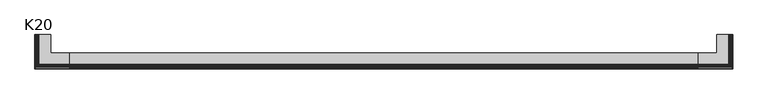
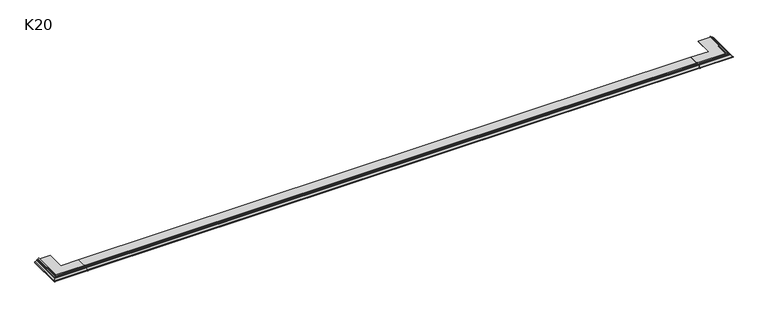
"""IFC4 building model written with IfcOpenShell, lengths in millimetres: proxy geometry, K20 Profil okapowy prosty : K20."""

from ifc_helpers import new_model, si_unit, frame, origin, place, context, project, spatial, polyline, circle_curve, ellipse_curve, source, transform, mapped, element, save
from ifc_brep_helpers import plane_surface, cylinder_surface, revolved_surface, advanced_brep


def k20_9d933942(model_context):
    return source(origin(), model_context, "Body", "AdvancedBrep", [
        advanced_brep(
        [(4800.0, 87.4989572, -10.1021899), (4800.0, 87.4989572, -11.7962628), (4800.0, 3.8555414, -11.7962628), (4800.0, 3.8184302, -14.8082521), (4800.0, 2.818506, -14.7959319), (4800.0, 2.8554668, -11.7961596), (4800.0, -12.8739503, -12.0873026), (4800.0, -13.7120428, -12.3877207), (4800.0, -26.4454583, -21.9775098), (4800.0, -27.2422707, -23.5751141), (4800.0, -27.2422707, -27.009236), (4800.0, -28.9426252, -27.0091483), (4800.0, -28.9426252, -23.2256491), (4800.0, -27.7470161, -20.8295524), (4800.0, -14.6847117, -10.9920705), (4800.0, -12.9833846, -10.3902613), (4800.0, -6.0170507, -10.0981654), (4800.0, -4.1008363, -8.0999212), (4800.0, -4.1008363, -5.5101863), (4800.0, -4.0266413, -4.0258099), (4800.0, 0.0, 0.0), (4800.0, -0.0197124, -1.5998786), (4800.0, -2.4989019, -4.0499843), (4800.0, -2.500569, -5.510882), (4800.0, -2.500569, -10.1021899), (4932.5010428, 220.0, -10.1021899), (5022.500569, 220.0, -10.1021899), (5022.500569, 220.0, -5.510882), (5022.4989019, 220.0, -4.0499843), (5020.0197124, 220.0, -1.5998786), (5020.0, 220.0, 0.0), (5024.0266413, 220.0, -4.0258099), (5024.1005689, 220.0, -5.5101863), (5024.1008363, 220.0, -8.0999212), (5026.0170507, 220.0, -10.0981654), (5032.9833846, 220.0, -10.3902613), (5034.6847117, 220.0, -10.9920705), (5047.7470161, 220.0, -20.8295524), (5048.9422346, 220.0, -23.2256491), (5048.9426252, 220.0, -27.0091483), (5047.2426253, 220.0, -27.009236), (5047.2422707, 220.0, -23.5751141), (5046.4454583, 220.0, -21.9775098), (5033.7120428, 220.0, -12.3877207), (5032.8739503, 220.0, -12.0873026), (5017.1445332, 220.0, -11.7961596), (5017.181494, 220.0, -14.7959319), (5016.1815698, 220.0, -14.8082521), (5016.1444586, 220.0, -11.7962628), (4932.5010428, 220.0, -11.7962628), (5022.500569, -2.500569, -10.1021899), (4932.5010428, 87.4989572, -10.1021899), (5022.500569, -2.500569, -5.510882), (5022.4989019, -2.4989019, -4.0499843), (5020.0197124, -0.0197124, -1.5998786), (5020.0, 0.0, 0.0), (5024.0266413, -4.0266413, -4.0258099), (5024.1008363, -4.1005689, -5.5101863), (5024.1008363, -4.1008363, -8.0999212), (5026.0170507, -6.0170507, -10.0981654), (5032.9833846, -12.9833846, -10.3902613), (5034.6847117, -14.6847117, -10.9920705), (5047.7470161, -27.7470161, -20.8295524), (5048.9426252, -28.9422346, -23.2256491), (5048.9426252, -28.9426252, -27.0091483), (5047.2422707, -27.2426253, -27.009236), (5047.2422707, -27.2422707, -23.5751141), (5046.4454583, -26.4454583, -21.9775098), (5033.7120428, -13.7120428, -12.3877207), (5017.1445332, 2.8554668, -11.7961596), (5032.8739503, -12.8739503, -12.0873026), (5017.181494, 2.818506, -14.7959319), (5016.1815698, 3.8184302, -14.8082521), (5016.1444586, 3.8555414, -11.7962628), (4932.5010428, 87.4989572, -11.7962628)],
        [
            (0, 1),
            (1, 2),
            (2, 3),
            (3, 4),
            (4, 5),
            (5, 6),
            (6, 7, circle_curve(frame((4800.0, -12.8482023, -13.4783781), z_axis=(1.0, 0.0, 0.0), x_axis=(0.0, -0.01850629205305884, 0.9998287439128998)), 1.3913138)),
            (7, 8),
            (8, 9, circle_curve(frame((4800.0, -25.2422707, -23.5751141), z_axis=(1.0, 0.0, 0.0), x_axis=(0.0, -0.6015938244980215, 0.7988021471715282)), 2.0)),
            (9, 10),
            (10, 11, circle_curve(frame((4800.0, -28.0926252, -27.0091483), z_axis=(-1.0, 0.0, 0.0), x_axis=(0.0, 0.9999999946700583, -0.0001032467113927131)), 0.85)),
            (11, 12),
            (12, 13, circle_curve(frame((4800.0, -25.9422346, -23.2259588), z_axis=(-1.0, 0.0, 0.0), x_axis=(0.0, -0.9999999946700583, 0.00010324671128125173)), 3.0)),
            (13, 14),
            (14, 15, circle_curve(frame((4800.0, -12.8799303, -13.388477), z_axis=(-1.0, 0.0, 0.0), x_axis=(0.0, -0.6015938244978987, 0.7988021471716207)), 3.0)),
            (15, 16),
            (16, 17, circle_curve(frame((4800.0, -6.1008363, -8.0999212), z_axis=(1.0, 0.0, 0.0), x_axis=(0.0, 0.04189282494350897, -0.9991221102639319)), 2.0)),
            (17, 18),
            (18, 19, circle_curve(frame((4800.0, 10.869654, -5.5117319), z_axis=(-1.0, 0.0, 0.0), x_axis=(0.0, -0.9999999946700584, 0.00010324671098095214)), 14.970223)),
            (19, 20, circle_curve(frame((4800.0, 0.4451419, -4.4718752), z_axis=(-1.0, 0.0, 0.0), x_axis=(0.0, -0.9950616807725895, 0.09925850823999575)), 4.4939759)),
            (20, 21),
            (21, 22, circle_curve(frame((4800.0, 0.0325847, -4.1321586), z_axis=(1.0, 0.0, 0.0), x_axis=(0.0, -0.020647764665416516, 0.9997868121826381)), 2.53282)),
            (22, 23, circle_curve(frame((4800.0, 65.5675894, -4.8581062), z_axis=(1.0, 0.0, 0.0), x_axis=(0.0, -0.9999295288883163, 0.011871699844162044)), 68.0712884)),
            (23, 24),
            (24, 0),
            (25, 26),
            (26, 27),
            (27, 28, circle_curve(frame((4954.4324106, 220.0, -4.8581062), z_axis=(0.0, -1.0, 0.0), x_axis=(0.9999295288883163, 0.0, 0.011871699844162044)), 68.0712884)),
            (28, 29, circle_curve(frame((5019.9674153, 220.0, -4.1321586), z_axis=(0.0, -1.0, 0.0), x_axis=(0.020647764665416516, 0.0, 0.9997868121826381)), 2.53282)),
            (29, 30),
            (30, 31, circle_curve(frame((5019.5548581, 220.0, -4.4718752), z_axis=(0.0, 1.0, 0.0), x_axis=(0.9950616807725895, 0.0, 0.09925850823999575)), 4.4939759)),
            (31, 32, circle_curve(frame((5009.130346, 220.0, -5.5117319), z_axis=(0.0, 1.0, 0.0), x_axis=(0.9999999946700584, 0.0, 0.00010324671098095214)), 14.970223)),
            (32, 33),
            (33, 34, circle_curve(frame((5026.1008363, 220.0, -8.0999212), z_axis=(0.0, -1.0, 0.0), x_axis=(-0.04189282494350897, 0.0, -0.9991221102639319)), 2.0)),
            (34, 35),
            (35, 36, circle_curve(frame((5032.8799303, 220.0, -13.388477), z_axis=(0.0, 1.0, 0.0), x_axis=(0.6015938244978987, 0.0, 0.7988021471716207)), 3.0)),
            (36, 37),
            (37, 38, circle_curve(frame((5045.9422346, 220.0, -23.2259588), z_axis=(0.0, 1.0, 0.0), x_axis=(0.9999999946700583, 0.0, 0.00010324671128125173)), 3.0)),
            (38, 39),
            (39, 40, circle_curve(frame((5048.0926252, 220.0, -27.0091483), z_axis=(0.0, 1.0, 0.0), x_axis=(-0.9999999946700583, 0.0, -0.0001032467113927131)), 0.85)),
            (40, 41),
            (41, 42, circle_curve(frame((5045.2422707, 220.0, -23.5751141), z_axis=(0.0, -1.0, 0.0), x_axis=(0.6015938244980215, 0.0, 0.7988021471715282)), 2.0)),
            (42, 43),
            (43, 44, circle_curve(frame((5032.8482023, 220.0, -13.4783781), z_axis=(0.0, -1.0, 0.0), x_axis=(0.01850629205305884, 0.0, 0.9998287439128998)), 1.3913138)),
            (44, 45),
            (45, 46),
            (46, 47),
            (47, 48),
            (48, 49),
            (49, 25),
            (24, 50),
            (50, 26),
            (25, 51),
            (51, 0),
            (23, 52),
            (52, 50),
            (22, 53),
            (53, 52, ellipse_curve(frame((4954.4324106, 65.5675894, -4.8581062), z_axis=(0.7071067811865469, 0.7071067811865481, 0.0), x_axis=(0.7071067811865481, -0.7071067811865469, 0.0)), 96.2673393, 68.0712884)),
            (21, 54),
            (54, 53, ellipse_curve(frame((5019.9674153, 0.0325847, -4.1321586), z_axis=(0.7071067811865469, 0.7071067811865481, 0.0), x_axis=(0.7071067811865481, -0.7071067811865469, 0.0)), 3.5819484, 2.53282)),
            (20, 55),
            (55, 54),
            (19, 56),
            (56, 55, ellipse_curve(frame((5019.5548581, 0.4451419, -4.4718752), z_axis=(-0.7071067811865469, -0.7071067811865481, 0.0), x_axis=(-0.7071067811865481, 0.7071067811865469, 0.0)), 6.3554417, 4.4939759)),
            (18, 57),
            (57, 56, ellipse_curve(frame((5009.130346, 10.869654, -5.5117319), z_axis=(-0.7071067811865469, -0.7071067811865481, 0.0), x_axis=(-0.7071067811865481, 0.7071067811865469, 0.0)), 21.1710924, 14.970223)),
            (17, 58),
            (58, 57),
            (16, 59),
            (59, 58, ellipse_curve(frame((5026.1008363, -6.1008363, -8.0999212), z_axis=(0.7071067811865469, 0.7071067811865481, 0.0), x_axis=(0.7071067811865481, -0.7071067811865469, 0.0)), 2.8284271, 2.0)),
            (15, 60),
            (60, 59),
            (14, 61),
            (61, 60, ellipse_curve(frame((5032.8799303, -12.8799303, -13.388477), z_axis=(-0.7071067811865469, -0.7071067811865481, 0.0), x_axis=(-0.7071067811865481, 0.7071067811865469, 0.0)), 4.2426407, 3.0)),
            (13, 62),
            (62, 61),
            (12, 63),
            (63, 62, ellipse_curve(frame((5045.9422346, -25.9422346, -23.2259588), z_axis=(-0.7071067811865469, -0.7071067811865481, 0.0), x_axis=(-0.7071067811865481, 0.7071067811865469, 0.0)), 4.2426407, 3.0)),
            (11, 64),
            (64, 63),
            (10, 65),
            (65, 64, ellipse_curve(frame((5048.0926252, -28.0926252, -27.0091483), z_axis=(-0.7071067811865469, -0.7071067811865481, 0.0), x_axis=(-0.7071067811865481, 0.7071067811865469, 0.0)), 1.2020815, 0.85)),
            (9, 66),
            (66, 65),
            (8, 67),
            (67, 66, ellipse_curve(frame((5045.2422707, -25.2422707, -23.5751141), z_axis=(0.7071067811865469, 0.7071067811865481, 0.0), x_axis=(0.7071067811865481, -0.7071067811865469, 0.0)), 2.8284271, 2.0)),
            (7, 68),
            (68, 67),
            (5, 69),
            (69, 70),
            (70, 6),
            (4, 71),
            (71, 69),
            (3, 72),
            (72, 71),
            (2, 73),
            (73, 72),
            (1, 74),
            (74, 49),
            (48, 73),
            (51, 74),
            (52, 27),
            (54, 29),
            (28, 53),
            (56, 31),
            (30, 55),
            (58, 33),
            (32, 57),
            (60, 35),
            (34, 59),
            (61, 36),
            (70, 68, ellipse_curve(frame((5032.8482023, -12.8482023, -13.4783781), z_axis=(0.7071067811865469, 0.7071067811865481, 0.0), x_axis=(0.7071067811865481, -0.7071067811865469, 0.0)), 1.9676148, 1.3913138)),
            (62, 37),
            (63, 38),
            (64, 39),
            (65, 40),
            (66, 41),
            (67, 42),
            (68, 43),
            (70, 44),
            (69, 45),
            (71, 46),
            (72, 47),
        ],
        [
            plane_surface(frame((4800.0, 0.0, 1.0), z_axis=(-1.0, 0.0, 0.0), x_axis=(0.0, 0.0, 1.0))),
            plane_surface(frame((5020.0, 220.0, 1.0), z_axis=(0.0, 1.0, 0.0), x_axis=(0.0, 0.0, 1.0))),
            plane_surface(frame((4800.0, 87.4989572, -10.1021899), z_axis=(0.0, 0.0, 1.0), x_axis=(1.0, 0.0, 0.0))),
            plane_surface(frame((4800.0, -2.500569, -10.1021899), z_axis=(0.0, 1.0, 0.0), x_axis=(1.0, 0.0, 0.0))),
            revolved_surface(polyline([(5022.503699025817, -2.498901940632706, -4.049984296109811), (4800.0, -2.498901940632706, -4.049984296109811)]), (4800.0, 65.5675894, -4.8581062), (1.0, 0.0, 0.0)),
            revolved_surface(polyline([(5022.5002353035, -0.01971237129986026, -1.599878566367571), (4800.0, -0.01971237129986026, -1.599878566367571)]), (4800.0, 0.0325847, -4.1321586), (1.0, 0.0, 0.0)),
            plane_surface(frame((4800.0, -0.0197124, -1.5998786), z_axis=(0.0, 0.9999241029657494, -0.012320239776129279), x_axis=(1.0, 0.0, 0.0))),
            cylinder_surface(frame((4800.0, 0.4451419, -4.4718752), z_axis=(-1.0000000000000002, 0.0, 0.0), x_axis=(0.0, -0.9950616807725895, 0.09925850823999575)), 4.4939759),
            cylinder_surface(frame((4800.0, 10.869654, -5.5117319), z_axis=(-1.0000000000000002, 0.0, 0.0), x_axis=(0.0, -0.9999999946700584, 0.00010324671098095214)), 14.970223),
            plane_surface(frame((4800.0, -4.1008363, -5.5101863), z_axis=(0.0, -1.0, 0.0), x_axis=(1.0, 0.0, 0.0))),
            revolved_surface(polyline([(5028.100836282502, -6.017050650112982, -10.098165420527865), (4800.0, -6.017050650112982, -10.098165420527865)]), (4800.0, -6.1008363, -8.0999212), (1.0, 0.0, 0.0)),
            plane_surface(frame((4800.0, -6.0170507, -10.0981654), z_axis=(0.0, -0.04189282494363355, 0.9991221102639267), x_axis=(1.0, 0.0, 0.0))),
            cylinder_surface(frame((4800.0, -12.8799303, -13.388477), z_axis=(-1.0, 0.0, 0.0), x_axis=(0.0, -0.6015938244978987, 0.7988021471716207)), 3.0),
            plane_surface(frame((4800.0, -14.6847117, -10.9920705), z_axis=(0.0, -0.6015938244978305, 0.798802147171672), x_axis=(1.0, 0.0, 0.0))),
            cylinder_surface(frame((4800.0, -25.9422346, -23.2259588), z_axis=(-1.0, 0.0, 0.0), x_axis=(0.0, -0.9999999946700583, 0.00010324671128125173)), 3.0),
            plane_surface(frame((4800.0, -28.9426252, -23.2256491), z_axis=(0.0, -1.0, 0.0), x_axis=(1.0, 0.0, 0.0))),
            cylinder_surface(frame((4800.0, -28.0926252, -27.0091483), z_axis=(-1.0, 0.0, 0.0), x_axis=(0.0, 0.9999999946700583, -0.0001032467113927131)), 0.85),
            plane_surface(frame((4800.0, -27.2422707, -27.009236), z_axis=(0.0, 1.0, 0.0), x_axis=(1.0, 0.0, 0.0))),
            revolved_surface(polyline([(5047.2422707, -26.44545834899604, -21.977509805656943), (4800.0, -26.44545834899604, -21.977509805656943)]), (4800.0, -25.2422707, -23.5751141), (1.0, 0.0, 0.0)),
            plane_surface(frame((4800.0, -26.4454583, -21.9775098), z_axis=(0.0, 0.6015938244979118, -0.7988021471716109), x_axis=(1.0, 0.0, 0.0))),
            plane_surface(frame((4800.0, -12.8739503, -12.0873026), z_axis=(0.0, 0.01850629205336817, -0.999828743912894), x_axis=(1.0, 0.0, 0.0))),
            plane_surface(frame((4800.0, 2.8554668, -11.7961596), z_axis=(0.0, -0.9999241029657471, 0.012320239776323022), x_axis=(1.0, 0.0, 0.0))),
            plane_surface(frame((4800.0, 2.818506, -14.7959319), z_axis=(0.0, -0.01232023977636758, -0.9999241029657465), x_axis=(1.0, 0.0, 0.0))),
            plane_surface(frame((4800.0, 3.8184302, -14.8082521), z_axis=(0.0, 0.9999241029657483, -0.012320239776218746), x_axis=(1.0, 0.0, 0.0))),
            plane_surface(frame((4800.0, 3.8555414, -11.7962628), z_axis=(0.0, 0.0, -1.0), x_axis=(1.0, 0.0, 0.0))),
            plane_surface(frame((4800.0, 87.4989572, -11.7962628), z_axis=(0.0, 1.0, 0.0), x_axis=(1.0, 0.0, 0.0))),
            plane_surface(frame((5022.500569, -2.500569, -10.1021899), z_axis=(-1.0, 0.0, 0.0), x_axis=(0.0, 1.0, 0.0))),
            revolved_surface(polyline([(5020.0197123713, 220.0, -1.599878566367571), (5020.0197123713, -2.5002353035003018, -1.599878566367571)]), (5019.9674153, 0.0, -4.1321586), (0.0, 1.0, 0.0)),
            cylinder_surface(frame((5019.5548581, 0.0, -4.4718752), z_axis=(0.0, -1.0000000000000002, 0.0), x_axis=(0.9950616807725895, 0.0, 0.09925850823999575)), 4.4939759),
            plane_surface(frame((5024.1008363, -4.1008363, -5.5101863), z_axis=(1.0, 0.0, 0.0), x_axis=(0.0, 1.0, 0.0))),
            plane_surface(frame((5026.0170507, -6.0170507, -10.0981654), z_axis=(0.04189282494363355, 0.0, 0.9991221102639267), x_axis=(0.0, 1.0, 0.0))),
            cylinder_surface(frame((5032.8799303, 0.0, -13.388477), z_axis=(0.0, -1.0, 0.0), x_axis=(0.6015938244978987, 0.0, 0.7988021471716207)), 3.0),
            revolved_surface(polyline([(5034.2395160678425, -12.873950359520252, -12.087302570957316), (4800.0, -12.873950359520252, -12.087302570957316)]), (4800.0, -12.8482023, -13.4783781), (1.0, 0.0, 0.0)),
            revolved_surface(polyline([(5022.498901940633, 220.0, -4.049984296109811), (5022.498901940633, -2.503699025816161, -4.049984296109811)]), (4954.4324106, 0.0, -4.8581062), (0.0, 1.0, 0.0)),
            plane_surface(frame((5020.0197124, -0.0197124, -1.5998786), z_axis=(-0.9999241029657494, 0.0, -0.012320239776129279), x_axis=(0.0, 1.0, 0.0))),
            cylinder_surface(frame((5009.130346, 0.0, -5.5117319), z_axis=(0.0, -1.0000000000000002, 0.0), x_axis=(0.9999999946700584, 0.0, 0.00010324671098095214)), 14.970223),
            revolved_surface(polyline([(5026.017050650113, 220.0, -10.098165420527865), (5026.017050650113, -8.100836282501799, -10.098165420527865)]), (5026.1008363, 0.0, -8.0999212), (0.0, 1.0, 0.0)),
            plane_surface(frame((5034.6847117, -14.6847117, -10.9920705), z_axis=(0.6015938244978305, 0.0, 0.798802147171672), x_axis=(0.0, 1.0, 0.0))),
            cylinder_surface(frame((5045.9422346, 0.0, -23.2259588), z_axis=(0.0, -1.0, 0.0), x_axis=(0.9999999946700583, 0.0, 0.00010324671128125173)), 3.0),
            plane_surface(frame((5048.9426252, -28.9426252, -23.2256491), z_axis=(1.0, 0.0, 0.0), x_axis=(0.0, 1.0, 0.0))),
            cylinder_surface(frame((5048.0926252, 0.0, -27.0091483), z_axis=(0.0, -1.0, 0.0), x_axis=(-0.9999999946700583, 0.0, -0.0001032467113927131)), 0.85),
            plane_surface(frame((5047.2422707, -27.2422707, -27.009236), z_axis=(-1.0, 0.0, 0.0), x_axis=(0.0, 1.0, 0.0))),
            revolved_surface(polyline([(5046.445458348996, 220.0, -21.977509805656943), (5046.445458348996, -27.2422707, -21.977509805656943)]), (5045.2422707, 0.0, -23.5751141), (0.0, 1.0, 0.0)),
            plane_surface(frame((5046.4454583, -26.4454583, -21.9775098), z_axis=(-0.6015938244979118, 0.0, -0.7988021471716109), x_axis=(0.0, 1.0, 0.0))),
            revolved_surface(polyline([(5032.87395035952, 220.0, -12.087302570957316), (5032.87395035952, -14.239516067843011, -12.087302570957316)]), (5032.8482023, 0.0, -13.4783781), (0.0, 1.0, 0.0)),
            plane_surface(frame((5032.8739503, -12.8739503, -12.0873026), z_axis=(-0.01850629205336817, 0.0, -0.999828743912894), x_axis=(0.0, 1.0, 0.0))),
            plane_surface(frame((5017.1445332, 2.8554668, -11.7961596), z_axis=(0.9999241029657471, 0.0, 0.012320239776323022), x_axis=(0.0, 1.0, 0.0))),
            plane_surface(frame((5017.181494, 2.818506, -14.7959319), z_axis=(0.01232023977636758, 0.0, -0.9999241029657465), x_axis=(0.0, 1.0, 0.0))),
            plane_surface(frame((5016.1815698, 3.8184302, -14.8082521), z_axis=(-0.9999241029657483, 0.0, -0.012320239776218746), x_axis=(0.0, 1.0, 0.0))),
            plane_surface(frame((4932.5010428, 87.4989572, -11.7962628), z_axis=(-1.0, 0.0, 0.0), x_axis=(0.0, 1.0, 0.0))),
        ],
        [
            (0, [[1, 2, 3, 4, 5, 6, 7, 8, 9, 10, 11, 12, 13, 14, 15, 16, 17, 18, 19, 20, 21, 22, 23, 24, 25]]),
            (1, [[26, 27, 28, 29, 30, 31, 32, 33, 34, 35, 36, 37, 38, 39, 40, 41, 42, 43, 44, 45, 46, 47, 48, 49, 50]]),
            (2, [[51, 52, -26, 53, 54, -25]]),
            (3, [[55, 56, -51, -24]]),
            (4, [[57, 58, -55, -23]]),
            (5, [[59, 60, -57, -22]]),
            (6, [[61, 62, -59, -21]]),
            (7, [[63, 64, -61, -20]]),
            (8, [[65, 66, -63, -19]]),
            (9, [[67, 68, -65, -18]]),
            (10, [[69, 70, -67, -17]]),
            (11, [[71, 72, -69, -16]]),
            (12, [[73, 74, -71, -15]]),
            (13, [[75, 76, -73, -14]]),
            (14, [[77, 78, -75, -13]]),
            (15, [[79, 80, -77, -12]]),
            (16, [[81, 82, -79, -11]]),
            (17, [[83, 84, -81, -10]]),
            (18, [[85, 86, -83, -9]]),
            (19, [[87, 88, -85, -8]]),
            (20, [[89, 90, 91, -6]]),
            (21, [[92, 93, -89, -5]]),
            (22, [[94, 95, -92, -4]]),
            (23, [[96, 97, -94, -3]]),
            (24, [[98, 99, -49, 100, -96, -2]]),
            (25, [[-54, 101, -98, -1]]),
            (26, [[102, -27, -52, -56]]),
            (27, [[103, -29, 104, -60]]),
            (28, [[105, -31, 106, -64]]),
            (29, [[107, -33, 108, -68]]),
            (30, [[109, -35, 110, -72]]),
            (31, [[111, -36, -109, -74]]),
            (32, [[-91, 112, -87, -7]]),
            (33, [[-104, -28, -102, -58]]),
            (34, [[-106, -30, -103, -62]]),
            (35, [[-108, -32, -105, -66]]),
            (36, [[-110, -34, -107, -70]]),
            (37, [[113, -37, -111, -76]]),
            (38, [[114, -38, -113, -78]]),
            (39, [[115, -39, -114, -80]]),
            (40, [[116, -40, -115, -82]]),
            (41, [[117, -41, -116, -84]]),
            (42, [[118, -42, -117, -86]]),
            (43, [[119, -43, -118, -88]]),
            (44, [[120, -44, -119, -112]]),
            (45, [[121, -45, -120, -90]]),
            (46, [[122, -46, -121, -93]]),
            (47, [[123, -47, -122, -95]]),
            (48, [[-100, -48, -123, -97]]),
            (49, [[-53, -50, -99, -101]]),
        ],
    ),
        advanced_brep(
        [(220.0, 87.4989572, -10.1021899), (220.0, -2.500569, -10.1021899), (220.0, -2.500569, -5.510882), (220.0, -2.4989019, -4.0499843), (220.0, -0.0197124, -1.5998786), (220.0, 0.0, 0.0), (220.0, -4.0266413, -4.0258099), (220.0, -4.1005689, -5.5101863), (220.0, -4.1008363, -8.0999212), (220.0, -6.0170507, -10.0981654), (220.0, -12.9833846, -10.3902613), (220.0, -14.6847117, -10.9920705), (220.0, -27.7470161, -20.8295524), (220.0, -28.9422346, -23.2256491), (220.0, -28.9426252, -27.0091483), (220.0, -27.2426253, -27.009236), (220.0, -27.2422707, -23.5751141), (220.0, -26.4454583, -21.9775098), (220.0, -13.7120428, -12.3877207), (220.0, -12.8739503, -12.0873026), (220.0, 2.8554668, -11.7961596), (220.0, 2.818506, -14.7959319), (220.0, 3.8184302, -14.8082521), (220.0, 3.8555414, -11.7962628), (220.0, 87.4989572, -11.7962628), (87.4989572, 220.0, -10.1021899), (87.4989572, 220.0, -11.7962628), (3.8555414, 220.0, -11.7962628), (3.8184302, 220.0, -14.8082521), (2.818506, 220.0, -14.7959319), (2.8554668, 220.0, -11.7961596), (-12.8739503, 220.0, -12.0873026), (-13.7120428, 220.0, -12.3877207), (-26.4454583, 220.0, -21.9775098), (-27.2422707, 220.0, -23.5751141), (-27.2422707, 220.0, -27.009236), (-28.9426252, 220.0, -27.0091483), (-28.9426252, 220.0, -23.2256491), (-27.7470161, 220.0, -20.8295524), (-14.6847117, 220.0, -10.9920705), (-12.9833846, 220.0, -10.3902613), (-6.0170507, 220.0, -10.0981654), (-4.1008363, 220.0, -8.0999212), (-4.1008363, 220.0, -5.5101863), (-4.0266413, 220.0, -4.0258099), (0.0, 220.0, 0.0), (-0.0197124, 220.0, -1.5998786), (-2.4989019, 220.0, -4.0499843), (-2.500569, 220.0, -5.510882), (-2.500569, 220.0, -10.1021899), (87.4989572, 87.4989572, -10.1021899), (-2.500569, -2.500569, -10.1021899), (-2.500569, -2.500569, -5.510882), (-2.4989019, -2.4989019, -4.0499843), (-0.0197124, -0.0197124, -1.5998786), (0.0, 0.0, 0.0), (-4.0266413, -4.0266413, -4.0258099), (-4.1005689, -4.1005689, -5.5101863), (-4.1008363, -4.1008363, -8.0999212), (-6.0170507, -6.0170507, -10.0981654), (-12.9833846, -12.9833846, -10.3902613), (-14.6847117, -14.6847117, -10.9920705), (-27.7470161, -27.7470161, -20.8295524), (-28.9422346, -28.9422346, -23.2256491), (-28.9426252, -28.9426252, -27.0091483), (-27.2426253, -27.2426253, -27.009236), (-27.2422707, -27.2422707, -23.5751141), (-26.4454583, -26.4454583, -21.9775098), (-13.7120428, -13.7120428, -12.3877207), (-12.8739503, -12.8739503, -12.0873026), (2.8554668, 2.8554668, -11.7961596), (2.818506, 2.818506, -14.7959319), (3.8184302, 3.8184302, -14.8082521), (3.8555414, 3.8555414, -11.7962628), (87.4989572, 87.4989572, -11.7962628)],
        [
            (0, 1),
            (1, 2),
            (2, 3, circle_curve(frame((220.0, 65.5675894, -4.8581062), z_axis=(-1.0, 0.0, 0.0), x_axis=(0.0, -0.9999295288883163, 0.011871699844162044)), 68.0712884)),
            (3, 4, circle_curve(frame((220.0, 0.0325847, -4.1321586), z_axis=(-1.0, 0.0, 0.0), x_axis=(0.0, -0.020647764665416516, 0.9997868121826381)), 2.53282)),
            (4, 5),
            (5, 6, circle_curve(frame((220.0, 0.4451419, -4.4718752), z_axis=(1.0, 0.0, 0.0), x_axis=(0.0, -0.9950616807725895, 0.09925850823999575)), 4.4939759)),
            (6, 7, circle_curve(frame((220.0, 10.869654, -5.5117319), z_axis=(1.0, 0.0, 0.0), x_axis=(0.0, -0.9999999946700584, 0.00010324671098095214)), 14.970223)),
            (7, 8),
            (8, 9, circle_curve(frame((220.0, -6.1008363, -8.0999212), z_axis=(-1.0, 0.0, 0.0), x_axis=(0.0, 0.04189282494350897, -0.9991221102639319)), 2.0)),
            (9, 10),
            (10, 11, circle_curve(frame((220.0, -12.8799303, -13.388477), z_axis=(1.0, 0.0, 0.0), x_axis=(0.0, -0.6015938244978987, 0.7988021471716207)), 3.0)),
            (11, 12),
            (12, 13, circle_curve(frame((220.0, -25.9422346, -23.2259588), z_axis=(1.0, 0.0, 0.0), x_axis=(0.0, -0.9999999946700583, 0.00010324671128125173)), 3.0)),
            (13, 14),
            (14, 15, circle_curve(frame((220.0, -28.0926252, -27.0091483), z_axis=(1.0, 0.0, 0.0), x_axis=(0.0, 0.9999999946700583, -0.0001032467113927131)), 0.85)),
            (15, 16),
            (16, 17, circle_curve(frame((220.0, -25.2422707, -23.5751141), z_axis=(-1.0, 0.0, 0.0), x_axis=(0.0, -0.6015938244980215, 0.7988021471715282)), 2.0)),
            (17, 18),
            (18, 19, circle_curve(frame((220.0, -12.8482023, -13.4783781), z_axis=(-1.0, 0.0, 0.0), x_axis=(0.0, -0.01850629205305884, 0.9998287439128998)), 1.3913138)),
            (19, 20),
            (20, 21),
            (21, 22),
            (22, 23),
            (23, 24),
            (24, 0),
            (25, 26),
            (26, 27),
            (27, 28),
            (28, 29),
            (29, 30),
            (30, 31),
            (31, 32, circle_curve(frame((-12.8482023, 220.0, -13.4783781), z_axis=(0.0, -1.0, 0.0), x_axis=(-0.01850629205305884, 0.0, 0.9998287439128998)), 1.3913138)),
            (32, 33),
            (33, 34, circle_curve(frame((-25.2422707, 220.0, -23.5751141), z_axis=(0.0, -1.0, 0.0), x_axis=(-0.6015938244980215, 0.0, 0.7988021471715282)), 2.0)),
            (34, 35),
            (35, 36, circle_curve(frame((-28.0926252, 220.0, -27.0091483), z_axis=(0.0, 1.0, 0.0), x_axis=(0.9999999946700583, 0.0, -0.0001032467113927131)), 0.85)),
            (36, 37),
            (37, 38, circle_curve(frame((-25.9422346, 220.0, -23.2259588), z_axis=(0.0, 1.0, 0.0), x_axis=(-0.9999999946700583, 0.0, 0.00010324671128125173)), 3.0)),
            (38, 39),
            (39, 40, circle_curve(frame((-12.8799303, 220.0, -13.388477), z_axis=(0.0, 1.0, 0.0), x_axis=(-0.6015938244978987, 0.0, 0.7988021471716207)), 3.0)),
            (40, 41),
            (41, 42, circle_curve(frame((-6.1008363, 220.0, -8.0999212), z_axis=(0.0, -1.0, 0.0), x_axis=(0.04189282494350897, 0.0, -0.9991221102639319)), 2.0)),
            (42, 43),
            (43, 44, circle_curve(frame((10.869654, 220.0, -5.5117319), z_axis=(0.0, 1.0, 0.0), x_axis=(-0.9999999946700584, 0.0, 0.00010324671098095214)), 14.970223)),
            (44, 45, circle_curve(frame((0.4451419, 220.0, -4.4718752), z_axis=(0.0, 1.0, 0.0), x_axis=(-0.9950616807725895, 0.0, 0.09925850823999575)), 4.4939759)),
            (45, 46),
            (46, 47, circle_curve(frame((0.0325847, 220.0, -4.1321586), z_axis=(0.0, -1.0, 0.0), x_axis=(-0.020647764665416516, 0.0, 0.9997868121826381)), 2.53282)),
            (47, 48, circle_curve(frame((65.5675894, 220.0, -4.8581062), z_axis=(0.0, -1.0, 0.0), x_axis=(-0.9999295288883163, 0.0, 0.011871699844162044)), 68.0712884)),
            (48, 49),
            (49, 25),
            (0, 50),
            (50, 25),
            (49, 51),
            (51, 1),
            (51, 52),
            (52, 2),
            (52, 53, ellipse_curve(frame((65.5675894, 65.5675894, -4.8581062), z_axis=(-0.7071067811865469, 0.7071067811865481, 0.0), x_axis=(-0.7071067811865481, -0.7071067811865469, 0.0)), 96.2673393, 68.0712884)),
            (53, 3),
            (53, 54, ellipse_curve(frame((0.0325847, 0.0325847, -4.1321586), z_axis=(-0.7071067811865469, 0.7071067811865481, 0.0), x_axis=(-0.7071067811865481, -0.7071067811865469, 0.0)), 3.5819484, 2.53282)),
            (54, 4),
            (54, 55),
            (55, 5),
            (55, 56, ellipse_curve(frame((0.4451419, 0.4451419, -4.4718752), z_axis=(0.7071067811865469, -0.7071067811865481, 0.0), x_axis=(0.7071067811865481, 0.7071067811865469, 0.0)), 6.3554417, 4.4939759)),
            (56, 6),
            (56, 57, ellipse_curve(frame((10.869654, 10.869654, -5.5117319), z_axis=(0.7071067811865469, -0.7071067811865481, 0.0), x_axis=(0.7071067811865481, 0.7071067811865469, 0.0)), 21.1710924, 14.970223)),
            (57, 7),
            (57, 58),
            (58, 8),
            (58, 59, ellipse_curve(frame((-6.1008363, -6.1008363, -8.0999212), z_axis=(-0.7071067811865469, 0.7071067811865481, 0.0), x_axis=(-0.7071067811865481, -0.7071067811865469, 0.0)), 2.8284271, 2.0)),
            (59, 9),
            (59, 60),
            (60, 10),
            (60, 61, ellipse_curve(frame((-12.8799303, -12.8799303, -13.388477), z_axis=(0.7071067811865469, -0.7071067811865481, 0.0), x_axis=(0.7071067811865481, 0.7071067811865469, 0.0)), 4.2426407, 3.0)),
            (61, 11),
            (61, 62),
            (62, 12),
            (62, 63, ellipse_curve(frame((-25.9422346, -25.9422346, -23.2259588), z_axis=(0.7071067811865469, -0.7071067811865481, 0.0), x_axis=(0.7071067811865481, 0.7071067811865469, 0.0)), 4.2426407, 3.0)),
            (63, 13),
            (63, 64),
            (64, 14),
            (64, 65, ellipse_curve(frame((-28.0926252, -28.0926252, -27.0091483), z_axis=(0.7071067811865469, -0.7071067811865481, 0.0), x_axis=(0.7071067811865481, 0.7071067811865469, 0.0)), 1.2020815, 0.85)),
            (65, 15),
            (65, 66),
            (66, 16),
            (66, 67, ellipse_curve(frame((-25.2422707, -25.2422707, -23.5751141), z_axis=(-0.7071067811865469, 0.7071067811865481, 0.0), x_axis=(-0.7071067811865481, -0.7071067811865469, 0.0)), 2.8284271, 2.0)),
            (67, 17),
            (67, 68),
            (68, 18),
            (19, 69),
            (69, 70),
            (70, 20),
            (70, 71),
            (71, 21),
            (71, 72),
            (72, 22),
            (72, 73),
            (73, 23),
            (73, 27),
            (26, 74),
            (74, 24),
            (74, 50),
            (48, 52),
            (53, 47),
            (46, 54),
            (55, 45),
            (44, 56),
            (57, 43),
            (42, 58),
            (59, 41),
            (40, 60),
            (39, 61),
            (68, 69, ellipse_curve(frame((-12.8482023, -12.8482023, -13.4783781), z_axis=(-0.7071067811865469, 0.7071067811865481, 0.0), x_axis=(-0.7071067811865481, -0.7071067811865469, 0.0)), 1.9676148, 1.3913138)),
            (38, 62),
            (37, 63),
            (36, 64),
            (35, 65),
            (34, 66),
            (33, 67),
            (32, 68),
            (31, 69),
            (30, 70),
            (29, 71),
            (28, 72),
        ],
        [
            plane_surface(frame((220.0, 0.0, 1.0), z_axis=(1.0, 0.0, 0.0), x_axis=(0.0, 0.0, 1.0))),
            plane_surface(frame((0.0, 220.0, 1.0), z_axis=(0.0, 1.0, 0.0), x_axis=(0.0, 0.0, 1.0))),
            plane_surface(frame((220.0, 87.4989572, -10.1021899), z_axis=(0.0, 0.0, 1.0), x_axis=(-1.0, 0.0, 0.0))),
            plane_surface(frame((220.0, -2.500569, -10.1021899), z_axis=(0.0, 1.0, 0.0), x_axis=(-1.0, 0.0, 0.0))),
            revolved_surface(polyline([(-2.5036990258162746, -2.498901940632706, -4.049984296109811), (220.0, -2.498901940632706, -4.049984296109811)]), (220.0, 65.5675894, -4.8581062), (-1.0, 0.0, 0.0)),
            revolved_surface(polyline([(-2.500235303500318, -0.01971237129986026, -1.599878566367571), (220.0, -0.01971237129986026, -1.599878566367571)]), (220.0, 0.0325847, -4.1321586), (-1.0, 0.0, 0.0)),
            plane_surface(frame((220.0, -0.0197124, -1.5998786), z_axis=(0.0, 0.9999241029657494, -0.012320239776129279), x_axis=(-1.0, 0.0, 0.0))),
            cylinder_surface(frame((220.0, 0.4451419, -4.4718752), z_axis=(1.0000000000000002, 0.0, 0.0), x_axis=(0.0, -0.9950616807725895, 0.09925850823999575)), 4.4939759),
            cylinder_surface(frame((220.0, 10.869654, -5.5117319), z_axis=(1.0000000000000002, 0.0, 0.0), x_axis=(0.0, -0.9999999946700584, 0.00010324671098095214)), 14.970223),
            plane_surface(frame((220.0, -4.1008363, -5.5101863), z_axis=(0.0, -1.0, 0.0), x_axis=(-1.0, 0.0, 0.0))),
            revolved_surface(polyline([(-8.100836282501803, -6.017050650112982, -10.098165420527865), (220.0, -6.017050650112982, -10.098165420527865)]), (220.0, -6.1008363, -8.0999212), (-1.0, 0.0, 0.0)),
            plane_surface(frame((220.0, -6.0170507, -10.0981654), z_axis=(0.0, -0.04189282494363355, 0.9991221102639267), x_axis=(-1.0, 0.0, 0.0))),
            cylinder_surface(frame((220.0, -12.8799303, -13.388477), z_axis=(1.0, 0.0, 0.0), x_axis=(0.0, -0.6015938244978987, 0.7988021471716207)), 3.0),
            plane_surface(frame((220.0, -14.6847117, -10.9920705), z_axis=(0.0, -0.6015938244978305, 0.798802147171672), x_axis=(-1.0, 0.0, 0.0))),
            cylinder_surface(frame((220.0, -25.9422346, -23.2259588), z_axis=(1.0, 0.0, 0.0), x_axis=(0.0, -0.9999999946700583, 0.00010324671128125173)), 3.0),
            plane_surface(frame((220.0, -28.9426252, -23.2256491), z_axis=(0.0, -1.0, 0.0), x_axis=(-1.0, 0.0, 0.0))),
            cylinder_surface(frame((220.0, -28.0926252, -27.0091483), z_axis=(1.0, 0.0, 0.0), x_axis=(0.0, 0.9999999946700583, -0.0001032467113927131)), 0.85),
            plane_surface(frame((220.0, -27.2422707, -27.009236), z_axis=(0.0, 1.0, 0.0), x_axis=(-1.0, 0.0, 0.0))),
            revolved_surface(polyline([(-27.242270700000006, -26.44545834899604, -21.977509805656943), (220.0, -26.44545834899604, -21.977509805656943)]), (220.0, -25.2422707, -23.5751141), (-1.0, 0.0, 0.0)),
            plane_surface(frame((220.0, -26.4454583, -21.9775098), z_axis=(0.0, 0.6015938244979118, -0.7988021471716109), x_axis=(-1.0, 0.0, 0.0))),
            plane_surface(frame((220.0, -12.8739503, -12.0873026), z_axis=(0.0, 0.01850629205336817, -0.999828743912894), x_axis=(-1.0, 0.0, 0.0))),
            plane_surface(frame((220.0, 2.8554668, -11.7961596), z_axis=(0.0, -0.9999241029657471, 0.012320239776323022), x_axis=(-1.0, 0.0, 0.0))),
            plane_surface(frame((220.0, 2.818506, -14.7959319), z_axis=(0.0, -0.01232023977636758, -0.9999241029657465), x_axis=(-1.0, 0.0, 0.0))),
            plane_surface(frame((220.0, 3.8184302, -14.8082521), z_axis=(0.0, 0.9999241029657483, -0.012320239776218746), x_axis=(-1.0, 0.0, 0.0))),
            plane_surface(frame((220.0, 3.8555414, -11.7962628), z_axis=(0.0, 0.0, -1.0), x_axis=(-1.0, 0.0, 0.0))),
            plane_surface(frame((220.0, 87.4989572, -11.7962628), z_axis=(0.0, 1.0, 0.0), x_axis=(-1.0, 0.0, 0.0))),
            plane_surface(frame((-2.500569, -2.500569, -10.1021899), z_axis=(1.0, 0.0, 0.0), x_axis=(0.0, 1.0, 0.0))),
            revolved_surface(polyline([(-0.01971237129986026, 220.0, -1.599878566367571), (-0.01971237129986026, -2.5002353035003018, -1.599878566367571)]), (0.0325847, 0.0, -4.1321586), (0.0, 1.0, 0.0)),
            cylinder_surface(frame((0.4451419, 0.0, -4.4718752), z_axis=(0.0, -1.0000000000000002, 0.0), x_axis=(-0.9950616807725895, 0.0, 0.09925850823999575)), 4.4939759),
            plane_surface(frame((-4.1008363, -4.1008363, -5.5101863), z_axis=(-1.0, 0.0, 0.0), x_axis=(0.0, 1.0, 0.0))),
            plane_surface(frame((-6.0170507, -6.0170507, -10.0981654), z_axis=(-0.04189282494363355, 0.0, 0.9991221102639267), x_axis=(0.0, 1.0, 0.0))),
            cylinder_surface(frame((-12.8799303, 0.0, -13.388477), z_axis=(0.0, -1.0, 0.0), x_axis=(-0.6015938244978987, 0.0, 0.7988021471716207)), 3.0),
            revolved_surface(polyline([(-14.239516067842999, -12.873950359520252, -12.087302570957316), (220.0, -12.873950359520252, -12.087302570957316)]), (220.0, -12.8482023, -13.4783781), (-1.0, 0.0, 0.0)),
            revolved_surface(polyline([(-2.498901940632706, 220.0, -4.049984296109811), (-2.498901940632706, -2.503699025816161, -4.049984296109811)]), (65.5675894, 0.0, -4.8581062), (0.0, 1.0, 0.0)),
            plane_surface(frame((-0.0197124, -0.0197124, -1.5998786), z_axis=(0.9999241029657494, 0.0, -0.012320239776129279), x_axis=(0.0, 1.0, 0.0))),
            cylinder_surface(frame((10.869654, 0.0, -5.5117319), z_axis=(0.0, -1.0000000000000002, 0.0), x_axis=(-0.9999999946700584, 0.0, 0.00010324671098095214)), 14.970223),
            revolved_surface(polyline([(-6.017050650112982, 220.0, -10.098165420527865), (-6.017050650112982, -8.100836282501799, -10.098165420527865)]), (-6.1008363, 0.0, -8.0999212), (0.0, 1.0, 0.0)),
            plane_surface(frame((-14.6847117, -14.6847117, -10.9920705), z_axis=(-0.6015938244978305, 0.0, 0.798802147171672), x_axis=(0.0, 1.0, 0.0))),
            cylinder_surface(frame((-25.9422346, 0.0, -23.2259588), z_axis=(0.0, -1.0, 0.0), x_axis=(-0.9999999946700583, 0.0, 0.00010324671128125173)), 3.0),
            plane_surface(frame((-28.9426252, -28.9426252, -23.2256491), z_axis=(-1.0, 0.0, 0.0), x_axis=(0.0, 1.0, 0.0))),
            cylinder_surface(frame((-28.0926252, 0.0, -27.0091483), z_axis=(0.0, -1.0, 0.0), x_axis=(0.9999999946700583, 0.0, -0.0001032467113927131)), 0.85),
            plane_surface(frame((-27.2422707, -27.2422707, -27.009236), z_axis=(1.0, 0.0, 0.0), x_axis=(0.0, 1.0, 0.0))),
            revolved_surface(polyline([(-26.44545834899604, 220.0, -21.977509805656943), (-26.44545834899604, -27.2422707, -21.977509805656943)]), (-25.2422707, 0.0, -23.5751141), (0.0, 1.0, 0.0)),
            plane_surface(frame((-26.4454583, -26.4454583, -21.9775098), z_axis=(0.6015938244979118, 0.0, -0.7988021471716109), x_axis=(0.0, 1.0, 0.0))),
            revolved_surface(polyline([(-12.873950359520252, 220.0, -12.087302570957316), (-12.873950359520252, -14.239516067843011, -12.087302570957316)]), (-12.8482023, 0.0, -13.4783781), (0.0, 1.0, 0.0)),
            plane_surface(frame((-12.8739503, -12.8739503, -12.0873026), z_axis=(0.01850629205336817, 0.0, -0.999828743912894), x_axis=(0.0, 1.0, 0.0))),
            plane_surface(frame((2.8554668, 2.8554668, -11.7961596), z_axis=(-0.9999241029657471, 0.0, 0.012320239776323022), x_axis=(0.0, 1.0, 0.0))),
            plane_surface(frame((2.818506, 2.818506, -14.7959319), z_axis=(-0.01232023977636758, 0.0, -0.9999241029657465), x_axis=(0.0, 1.0, 0.0))),
            plane_surface(frame((3.8184302, 3.8184302, -14.8082521), z_axis=(0.9999241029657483, 0.0, -0.012320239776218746), x_axis=(0.0, 1.0, 0.0))),
            plane_surface(frame((87.4989572, 87.4989572, -11.7962628), z_axis=(1.0, 0.0, 0.0), x_axis=(0.0, 1.0, 0.0))),
        ],
        [
            (0, [[1, 2, 3, 4, 5, 6, 7, 8, 9, 10, 11, 12, 13, 14, 15, 16, 17, 18, 19, 20, 21, 22, 23, 24, 25]]),
            (1, [[26, 27, 28, 29, 30, 31, 32, 33, 34, 35, 36, 37, 38, 39, 40, 41, 42, 43, 44, 45, 46, 47, 48, 49, 50]]),
            (2, [[-1, 51, 52, -50, 53, 54]]),
            (3, [[-2, -54, 55, 56]]),
            (4, [[-3, -56, 57, 58]]),
            (5, [[-4, -58, 59, 60]]),
            (6, [[-5, -60, 61, 62]]),
            (7, [[-6, -62, 63, 64]]),
            (8, [[-7, -64, 65, 66]]),
            (9, [[-8, -66, 67, 68]]),
            (10, [[-9, -68, 69, 70]]),
            (11, [[-10, -70, 71, 72]]),
            (12, [[-11, -72, 73, 74]]),
            (13, [[-12, -74, 75, 76]]),
            (14, [[-13, -76, 77, 78]]),
            (15, [[-14, -78, 79, 80]]),
            (16, [[-15, -80, 81, 82]]),
            (17, [[-16, -82, 83, 84]]),
            (18, [[-17, -84, 85, 86]]),
            (19, [[-18, -86, 87, 88]]),
            (20, [[-20, 89, 90, 91]]),
            (21, [[-21, -91, 92, 93]]),
            (22, [[-22, -93, 94, 95]]),
            (23, [[-23, -95, 96, 97]]),
            (24, [[-24, -97, 98, -27, 99, 100]]),
            (25, [[-25, -100, 101, -51]]),
            (26, [[-55, -53, -49, 102]]),
            (27, [[-59, 103, -47, 104]]),
            (28, [[-63, 105, -45, 106]]),
            (29, [[-67, 107, -43, 108]]),
            (30, [[-71, 109, -41, 110]]),
            (31, [[-73, -110, -40, 111]]),
            (32, [[-19, -88, 112, -89]]),
            (33, [[-57, -102, -48, -103]]),
            (34, [[-61, -104, -46, -105]]),
            (35, [[-65, -106, -44, -107]]),
            (36, [[-69, -108, -42, -109]]),
            (37, [[-75, -111, -39, 113]]),
            (38, [[-77, -113, -38, 114]]),
            (39, [[-79, -114, -37, 115]]),
            (40, [[-81, -115, -36, 116]]),
            (41, [[-83, -116, -35, 117]]),
            (42, [[-85, -117, -34, 118]]),
            (43, [[-87, -118, -33, 119]]),
            (44, [[-112, -119, -32, 120]]),
            (45, [[-90, -120, -31, 121]]),
            (46, [[-92, -121, -30, 122]]),
            (47, [[-94, -122, -29, 123]]),
            (48, [[-96, -123, -28, -98]]),
            (49, [[-101, -99, -26, -52]]),
        ],
    ),
        advanced_brep(
        [(220.0, 87.4989572, -10.1021899), (220.0, 87.4989572, -11.7962628), (220.0, 3.8555414, -11.7962628), (220.0, 3.8184302, -14.8082521), (220.0, 2.818506, -14.7959319), (220.0, 2.8554668, -11.7961596), (220.0, -12.8739503, -12.0873026), (220.0, -13.7120428, -12.3877207), (220.0, -26.4454583, -21.9775098), (220.0, -27.2422707, -23.5751141), (220.0, -27.2422707, -27.009236), (220.0, -28.9426252, -27.0091483), (220.0, -28.9426252, -23.2256491), (220.0, -27.7470161, -20.8295524), (220.0, -14.6847117, -10.9920705), (220.0, -12.9833846, -10.3902613), (220.0, -6.0170507, -10.0981654), (220.0, -4.1008363, -8.0999212), (220.0, -4.1008363, -5.5101863), (220.0, -4.0266413, -4.0258099), (220.0, 0.0, 0.0), (220.0, -0.0197124, -1.5998786), (220.0, -2.4989019, -4.0499843), (220.0, -2.500569, -5.510882), (220.0, -2.500569, -10.1021899), (4800.0, 87.4989572, -10.1021899), (4800.0, -2.500569, -10.1021899), (4800.0, -2.500569, -5.510882), (4800.0, -2.4989019, -4.0499843), (4800.0, -0.0197124, -1.5998786), (4800.0, 0.0, 0.0), (4800.0, -4.0266413, -4.0258099), (4800.0, -4.1005689, -5.5101863), (4800.0, -4.1008363, -8.0999212), (4800.0, -6.0170507, -10.0981654), (4800.0, -12.9833846, -10.3902613), (4800.0, -14.6847117, -10.9920705), (4800.0, -27.7470161, -20.8295524), (4800.0, -28.9422346, -23.2256491), (4800.0, -28.9426252, -27.0091483), (4800.0, -27.2426253, -27.009236), (4800.0, -27.2422707, -23.5751141), (4800.0, -26.4454583, -21.9775098), (4800.0, -13.7120428, -12.3877207), (4800.0, -12.8739503, -12.0873026), (4800.0, 2.8554668, -11.7961596), (4800.0, 2.818506, -14.7959319), (4800.0, 3.8184302, -14.8082521), (4800.0, 3.8555414, -11.7962628), (4800.0, 87.4989572, -11.7962628)],
        [
            (0, 1),
            (1, 2),
            (2, 3),
            (3, 4),
            (4, 5),
            (5, 6),
            (6, 7, circle_curve(frame((220.0, -12.8482023, -13.4783781), z_axis=(1.0, 0.0, 0.0), x_axis=(0.0, -0.01850629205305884, 0.9998287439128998)), 1.3913138)),
            (7, 8),
            (8, 9, circle_curve(frame((220.0, -25.2422707, -23.5751141), z_axis=(1.0, 0.0, 0.0), x_axis=(0.0, -0.6015938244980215, 0.7988021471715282)), 2.0)),
            (9, 10),
            (10, 11, circle_curve(frame((220.0, -28.0926252, -27.0091483), z_axis=(-1.0, 0.0, 0.0), x_axis=(0.0, 0.9999999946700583, -0.0001032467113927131)), 0.85)),
            (11, 12),
            (12, 13, circle_curve(frame((220.0, -25.9422346, -23.2259588), z_axis=(-1.0, 0.0, 0.0), x_axis=(0.0, -0.9999999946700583, 0.00010324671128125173)), 3.0)),
            (13, 14),
            (14, 15, circle_curve(frame((220.0, -12.8799303, -13.388477), z_axis=(-1.0, 0.0, 0.0), x_axis=(0.0, -0.6015938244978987, 0.7988021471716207)), 3.0)),
            (15, 16),
            (16, 17, circle_curve(frame((220.0, -6.1008363, -8.0999212), z_axis=(1.0, 0.0, 0.0), x_axis=(0.0, 0.04189282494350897, -0.9991221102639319)), 2.0)),
            (17, 18),
            (18, 19, circle_curve(frame((220.0, 10.869654, -5.5117319), z_axis=(-1.0, 0.0, 0.0), x_axis=(0.0, -0.9999999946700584, 0.00010324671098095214)), 14.970223)),
            (19, 20, circle_curve(frame((220.0, 0.4451419, -4.4718752), z_axis=(-1.0, 0.0, 0.0), x_axis=(0.0, -0.9950616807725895, 0.09925850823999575)), 4.4939759)),
            (20, 21),
            (21, 22, circle_curve(frame((220.0, 0.0325847, -4.1321586), z_axis=(1.0, 0.0, 0.0), x_axis=(0.0, -0.020647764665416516, 0.9997868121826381)), 2.53282)),
            (22, 23, circle_curve(frame((220.0, 65.5675894, -4.8581062), z_axis=(1.0, 0.0, 0.0), x_axis=(0.0, -0.9999295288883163, 0.011871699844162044)), 68.0712884)),
            (23, 24),
            (24, 0),
            (25, 26),
            (26, 27),
            (27, 28, circle_curve(frame((4800.0, 65.5675894, -4.8581062), z_axis=(-1.0, 0.0, 0.0), x_axis=(0.0, -0.9999295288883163, 0.011871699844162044)), 68.0712884)),
            (28, 29, circle_curve(frame((4800.0, 0.0325847, -4.1321586), z_axis=(-1.0, 0.0, 0.0), x_axis=(0.0, -0.020647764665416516, 0.9997868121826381)), 2.53282)),
            (29, 30),
            (30, 31, circle_curve(frame((4800.0, 0.4451419, -4.4718752), z_axis=(1.0, 0.0, 0.0), x_axis=(0.0, -0.9950616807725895, 0.09925850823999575)), 4.4939759)),
            (31, 32, circle_curve(frame((4800.0, 10.869654, -5.5117319), z_axis=(1.0, 0.0, 0.0), x_axis=(0.0, -0.9999999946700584, 0.00010324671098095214)), 14.970223)),
            (32, 33),
            (33, 34, circle_curve(frame((4800.0, -6.1008363, -8.0999212), z_axis=(-1.0, 0.0, 0.0), x_axis=(0.0, 0.04189282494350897, -0.9991221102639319)), 2.0)),
            (34, 35),
            (35, 36, circle_curve(frame((4800.0, -12.8799303, -13.388477), z_axis=(1.0, 0.0, 0.0), x_axis=(0.0, -0.6015938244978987, 0.7988021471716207)), 3.0)),
            (36, 37),
            (37, 38, circle_curve(frame((4800.0, -25.9422346, -23.2259588), z_axis=(1.0, 0.0, 0.0), x_axis=(0.0, -0.9999999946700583, 0.00010324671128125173)), 3.0)),
            (38, 39),
            (39, 40, circle_curve(frame((4800.0, -28.0926252, -27.0091483), z_axis=(1.0, 0.0, 0.0), x_axis=(0.0, 0.9999999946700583, -0.0001032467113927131)), 0.85)),
            (40, 41),
            (41, 42, circle_curve(frame((4800.0, -25.2422707, -23.5751141), z_axis=(-1.0, 0.0, 0.0), x_axis=(0.0, -0.6015938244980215, 0.7988021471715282)), 2.0)),
            (42, 43),
            (43, 44, circle_curve(frame((4800.0, -12.8482023, -13.4783781), z_axis=(-1.0, 0.0, 0.0), x_axis=(0.0, -0.01850629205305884, 0.9998287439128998)), 1.3913138)),
            (44, 45),
            (45, 46),
            (46, 47),
            (47, 48),
            (48, 49),
            (49, 25),
            (17, 33),
            (32, 18),
            (31, 19),
            (30, 20),
            (29, 21),
            (28, 22),
            (27, 23),
            (26, 24),
            (16, 34),
            (0, 25),
            (49, 1),
            (48, 2),
            (47, 3),
            (46, 4),
            (45, 5),
            (44, 6),
            (43, 7),
            (42, 8),
            (41, 9),
            (40, 10),
            (39, 11),
            (38, 12),
            (37, 13),
            (36, 14),
            (35, 15),
        ],
        [
            plane_surface(frame((220.0, 0.0, 0.0), z_axis=(-1.0, 0.0, 0.0), x_axis=(0.0, 0.0, 1.0))),
            plane_surface(frame((4800.0, 0.0, 0.0), z_axis=(1.0, 0.0, 0.0), x_axis=(0.0, 0.0, 1.0))),
            plane_surface(frame((220.0, -4.1008363, -8.0999212), z_axis=(0.0, -1.0, 0.0), x_axis=(1.0, 0.0, 0.0))),
            cylinder_surface(frame((220.0, 10.869654, -5.5117319), z_axis=(-1.0000000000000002, 0.0, 0.0), x_axis=(0.0, -0.9999999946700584, 0.00010324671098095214)), 14.970223),
            cylinder_surface(frame((220.0, 0.4451419, -4.4718752), z_axis=(-1.0000000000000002, 0.0, 0.0), x_axis=(0.0, -0.9950616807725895, 0.09925850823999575)), 4.4939759),
            plane_surface(frame((220.0, 0.0, 0.0), z_axis=(0.0, 0.9999241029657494, -0.012320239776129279), x_axis=(1.0, 0.0, 0.0))),
            revolved_surface(polyline([(4800.0, -0.01971237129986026, -1.599878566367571), (220.0, -0.01971237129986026, -1.599878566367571)]), (220.0, 0.0325847, -4.1321586), (1.0, 0.0, 0.0)),
            revolved_surface(polyline([(4800.0, -2.498901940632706, -4.049984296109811), (220.0, -2.498901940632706, -4.049984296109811)]), (220.0, 65.5675894, -4.8581062), (1.0, 0.0, 0.0)),
            plane_surface(frame((220.0, -2.500569, -5.510882), z_axis=(0.0, 1.0, 0.0), x_axis=(1.0, 0.0, 0.0))),
            revolved_surface(polyline([(4800.0, -6.017050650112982, -10.098165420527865), (220.0, -6.017050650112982, -10.098165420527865)]), (220.0, -6.1008363, -8.0999212), (1.0, 0.0, 0.0)),
            plane_surface(frame((220.0, 87.4989572, -10.1021899), z_axis=(0.0, 1.0, 0.0), x_axis=(1.0, 0.0, 0.0))),
            plane_surface(frame((220.0, 87.4989572, -11.7962628), z_axis=(0.0, 0.0, -1.0), x_axis=(1.0, 0.0, 0.0))),
            plane_surface(frame((220.0, 3.8555414, -11.7962628), z_axis=(0.0, 0.9999241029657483, -0.012320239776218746), x_axis=(1.0, 0.0, 0.0))),
            plane_surface(frame((220.0, 3.8184302, -14.8082521), z_axis=(0.0, -0.01232023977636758, -0.9999241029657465), x_axis=(1.0, 0.0, 0.0))),
            plane_surface(frame((220.0, 2.818506, -14.7959319), z_axis=(0.0, -0.9999241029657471, 0.012320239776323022), x_axis=(1.0, 0.0, 0.0))),
            plane_surface(frame((220.0, 2.8554668, -11.7961596), z_axis=(0.0, 0.01850629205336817, -0.999828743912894), x_axis=(1.0, 0.0, 0.0))),
            revolved_surface(polyline([(4800.0, -12.873950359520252, -12.087302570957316), (220.0, -12.873950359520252, -12.087302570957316)]), (220.0, -12.8482023, -13.4783781), (1.0, 0.0, 0.0)),
            plane_surface(frame((220.0, -13.7120428, -12.3877207), z_axis=(0.0, 0.6015938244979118, -0.7988021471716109), x_axis=(1.0, 0.0, 0.0))),
            revolved_surface(polyline([(4800.0, -26.44545834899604, -21.977509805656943), (220.0, -26.44545834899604, -21.977509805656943)]), (220.0, -25.2422707, -23.5751141), (1.0, 0.0, 0.0)),
            plane_surface(frame((220.0, -27.2422707, -23.5751141), z_axis=(0.0, 1.0, 0.0), x_axis=(1.0, 0.0, 0.0))),
            cylinder_surface(frame((220.0, -28.0926252, -27.0091483), z_axis=(-1.0, 0.0, 0.0), x_axis=(0.0, 0.9999999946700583, -0.0001032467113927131)), 0.85),
            plane_surface(frame((220.0, -28.9426252, -27.0091483), z_axis=(0.0, -1.0, 0.0), x_axis=(1.0, 0.0, 0.0))),
            cylinder_surface(frame((220.0, -25.9422346, -23.2259588), z_axis=(-1.0, 0.0, 0.0), x_axis=(0.0, -0.9999999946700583, 0.00010324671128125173)), 3.0),
            plane_surface(frame((220.0, -27.7470161, -20.8295524), z_axis=(0.0, -0.6015938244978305, 0.798802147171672), x_axis=(1.0, 0.0, 0.0))),
            cylinder_surface(frame((220.0, -12.8799303, -13.388477), z_axis=(-1.0, 0.0, 0.0), x_axis=(0.0, -0.6015938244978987, 0.7988021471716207)), 3.0),
            plane_surface(frame((220.0, -12.9833846, -10.3902613), z_axis=(0.0, -0.04189282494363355, 0.9991221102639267), x_axis=(1.0, 0.0, 0.0))),
            plane_surface(frame((220.0, -2.500569, -10.1021899), z_axis=(0.0, 0.0, 1.0), x_axis=(1.0, 0.0, 0.0))),
        ],
        [
            (0, [[1, 2, 3, 4, 5, 6, 7, 8, 9, 10, 11, 12, 13, 14, 15, 16, 17, 18, 19, 20, 21, 22, 23, 24, 25]]),
            (1, [[26, 27, 28, 29, 30, 31, 32, 33, 34, 35, 36, 37, 38, 39, 40, 41, 42, 43, 44, 45, 46, 47, 48, 49, 50]]),
            (2, [[-18, 51, -33, 52]]),
            (3, [[-19, -52, -32, 53]]),
            (4, [[-20, -53, -31, 54]]),
            (5, [[-21, -54, -30, 55]]),
            (6, [[-22, -55, -29, 56]]),
            (7, [[-23, -56, -28, 57]]),
            (8, [[-24, -57, -27, 58]]),
            (9, [[-17, 59, -34, -51]]),
            (10, [[-1, 60, -50, 61]]),
            (11, [[-2, -61, -49, 62]]),
            (12, [[-3, -62, -48, 63]]),
            (13, [[-4, -63, -47, 64]]),
            (14, [[-5, -64, -46, 65]]),
            (15, [[-6, -65, -45, 66]]),
            (16, [[-7, -66, -44, 67]]),
            (17, [[-8, -67, -43, 68]]),
            (18, [[-9, -68, -42, 69]]),
            (19, [[-10, -69, -41, 70]]),
            (20, [[-11, -70, -40, 71]]),
            (21, [[-12, -71, -39, 72]]),
            (22, [[-13, -72, -38, 73]]),
            (23, [[-14, -73, -37, 74]]),
            (24, [[-15, -74, -36, 75]]),
            (25, [[-16, -75, -35, -59]]),
            (26, [[-25, -58, -26, -60]]),
        ],
    ),
    ])


if __name__ == "__main__":
    model = new_model("IFC4")
    model_context = context("Model", 3, world=origin())
    ifc_project = project(units=[si_unit("LENGTHUNIT", "METRE", prefix="MILLI")], contexts=[model_context])
    site = spatial("IfcSite", under=ifc_project)
    building = spatial("IfcBuilding", under=site)
    placement = place(None, origin())
    k20_shape = k20_9d933942(model_context)
    element("IfcBuildingElementProxy", 1, Name="K20 Profil okapowy prosty : K20", ObjectType="K20 Profil okapowy prosty : K20", at=placement, inside=building, context=model_context, shape_type="MappedRepresentation", body=[
        mapped(k20_shape, transform((0.0, 0.0, 0.0), x_axis=(1.0, 0.0, 0.0), y_axis=(0.0, 1.0, 0.0), z_axis=(0.0, 0.0, 1.0))),
    ])
    save(model, "model.ifc")
